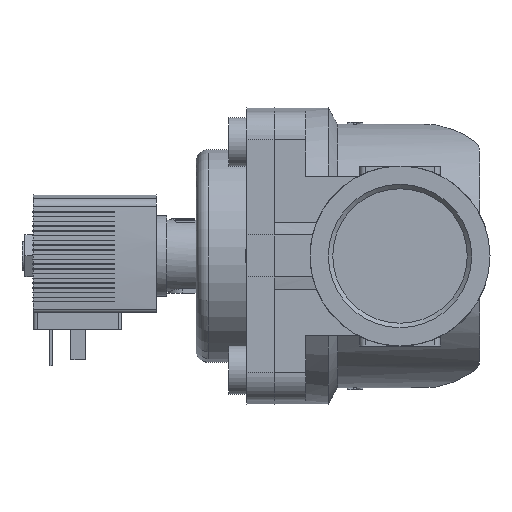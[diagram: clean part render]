
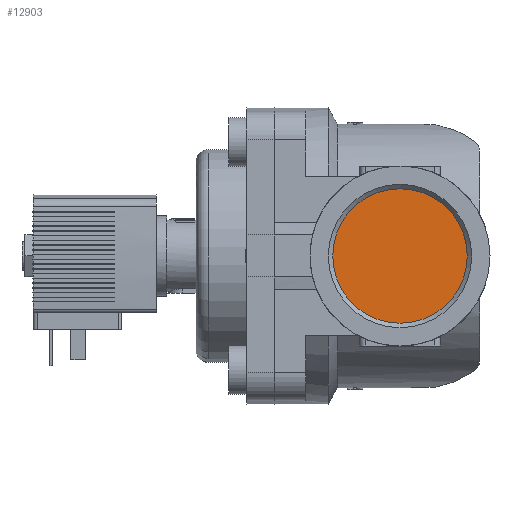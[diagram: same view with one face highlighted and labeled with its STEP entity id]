
A CAD part, left-side view. The second image highlights one B-rep face of the part: STEP entity #12903.
In plain terms, the highlighted planar face has unit normal (-1, 0, 0).
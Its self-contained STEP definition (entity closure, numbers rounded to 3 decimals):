
#3770=ORIENTED_EDGE('',*,*,#6207,.F.);
#6207=EDGE_CURVE('',#7531,#7531,#8282,.T.);
#7531=VERTEX_POINT('',#18558);
#8282=CIRCLE('',#13665,22.423);
#8677=EDGE_LOOP('',(#3770));
#9275=FACE_BOUND('',#8677,.T.);
#9759=PLANE('',#13666);
#12903=ADVANCED_FACE('',(#9275),#9759,.T.);
#13665=AXIS2_PLACEMENT_3D('',#18557,#15353,#15354);
#13666=AXIS2_PLACEMENT_3D('',#18559,#15355,#15356);
#15353=DIRECTION('',(1.,0.,0.));
#15354=DIRECTION('',(0.,0.,-1.));
#15355=DIRECTION('',(-1.,0.,0.));
#15356=DIRECTION('',(0.,0.,1.));
#18557=CARTESIAN_POINT('',(-38.,0.,0.));
#18558=CARTESIAN_POINT('',(-38.,0.,-22.423));
#18559=CARTESIAN_POINT('',(-38.,22.423,0.));
